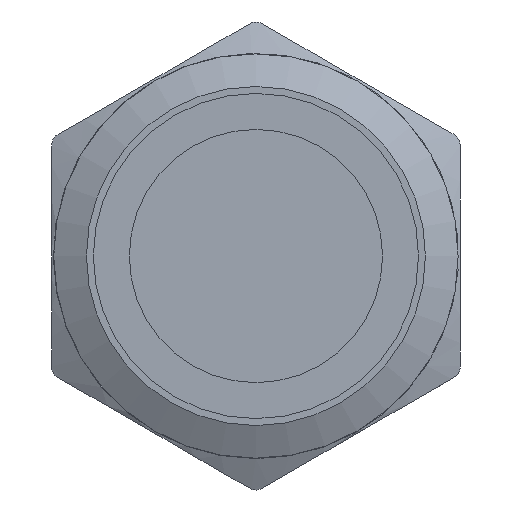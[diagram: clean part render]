
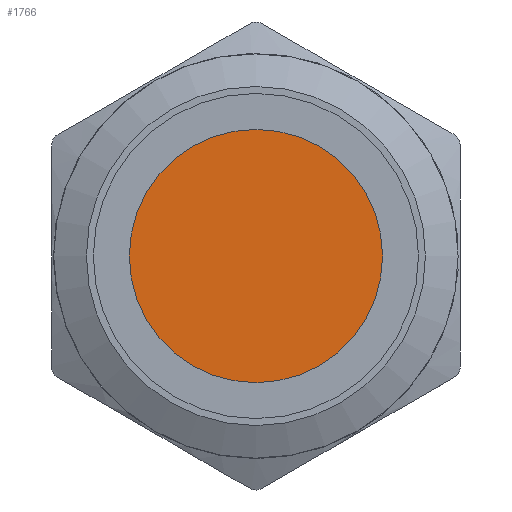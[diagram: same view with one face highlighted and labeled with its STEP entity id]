
A CAD part, front view. The second image highlights one B-rep face of the part: STEP entity #1766.
In plain terms, the highlighted planar face has unit normal (0, -1, 0).
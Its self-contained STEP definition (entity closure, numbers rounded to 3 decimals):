
#1274=FACE_OUTER_BOUND('',#2186,.T.);
#1518=PLANE('',#5165);
#1766=ADVANCED_FACE('',(#1274),#1518,.T.);
#2186=EDGE_LOOP('',(#2527));
#2527=ORIENTED_EDGE('',*,*,#4378,.T.);
#3911=VERTEX_POINT('',#11068);
#4378=EDGE_CURVE('',#3911,#3911,#5074,.T.);
#5074=CIRCLE('',#5164,7.75);
#5164=AXIS2_PLACEMENT_3D('',#11067,#5540,#5541);
#5165=AXIS2_PLACEMENT_3D('',#11069,#5542,#5543);
#5540=DIRECTION('',(0.,-1.,0.));
#5541=DIRECTION('',(0.,0.,-1.));
#5542=DIRECTION('',(0.,-1.,0.));
#5543=DIRECTION('',(0.,0.,1.));
#11067=CARTESIAN_POINT('',(0.,-19.099,0.));
#11068=CARTESIAN_POINT('',(0.,-19.099,-7.75));
#11069=CARTESIAN_POINT('',(0.,-19.099,0.));
